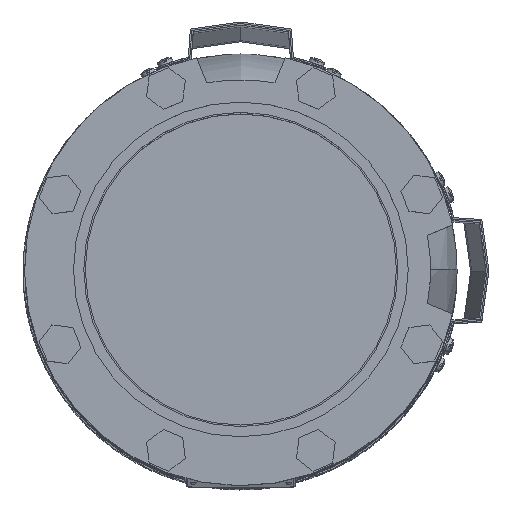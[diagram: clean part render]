
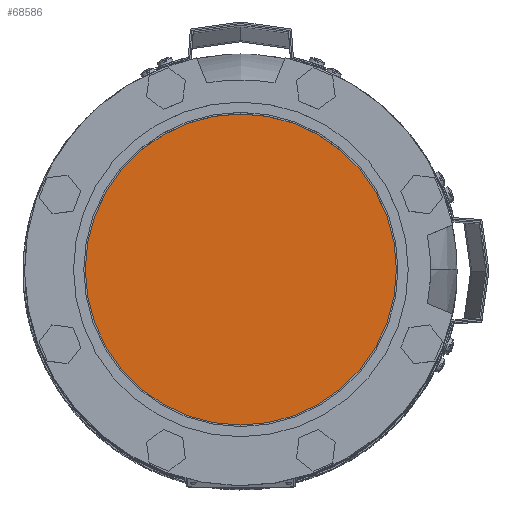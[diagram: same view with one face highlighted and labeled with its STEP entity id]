
A CAD part, top view. The second image highlights one B-rep face of the part: STEP entity #68586.
In plain terms, the highlighted planar face has unit normal (0, 0, 1) as drawn and (0, 1, 0) by its records, which use the part's own axes.
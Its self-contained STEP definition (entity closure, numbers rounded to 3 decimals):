
#653=CIRCLE('',#72280,102.5);
#654=CIRCLE('',#72281,102.5);
#16722=ORIENTED_EDGE('',*,*,#37514,.F.);
#16723=ORIENTED_EDGE('',*,*,#37515,.T.);
#37514=EDGE_CURVE('',#47910,#47911,#653,.T.);
#37515=EDGE_CURVE('',#47910,#47911,#654,.T.);
#47910=VERTEX_POINT('',#98982);
#47911=VERTEX_POINT('',#98983);
#55614=EDGE_LOOP('',(#16722,#16723));
#60565=FACE_BOUND('',#55614,.T.);
#65515=PLANE('',#72279);
#68586=ADVANCED_FACE('',(#60565),#65515,.T.);
#72279=AXIS2_PLACEMENT_3D('',#98980,#79014,#79015);
#72280=AXIS2_PLACEMENT_3D('',#98981,#79016,#79017);
#72281=AXIS2_PLACEMENT_3D('',#98984,#79018,#79019);
#79014=DIRECTION('',(0.,1.,0.));
#79015=DIRECTION('',(-1.,0.,0.));
#79016=DIRECTION('',(0.,-1.,0.));
#79017=DIRECTION('',(-1.,0.,0.));
#79018=DIRECTION('',(0.,1.,0.));
#79019=DIRECTION('',(-1.,0.,0.));
#98980=CARTESIAN_POINT('',(-109.56,216.5,0.));
#98981=CARTESIAN_POINT('',(0.,216.5,0.));
#98982=CARTESIAN_POINT('',(-102.5,216.5,0.));
#98983=CARTESIAN_POINT('',(102.5,216.5,0.));
#98984=CARTESIAN_POINT('',(0.,216.5,0.));
